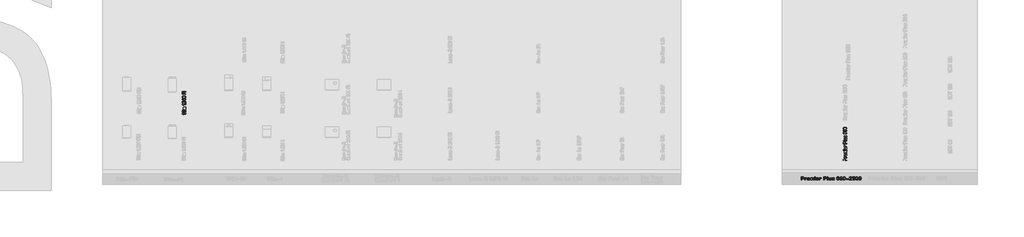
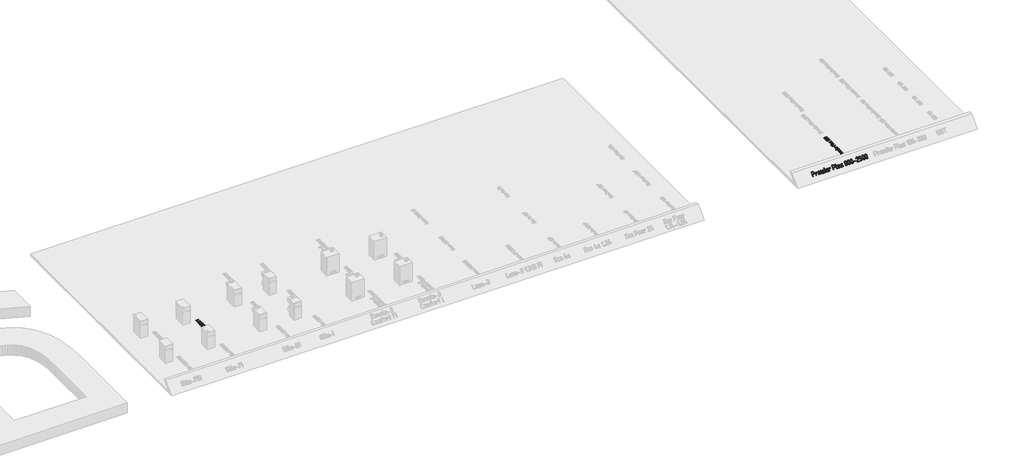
# One storey, part 8 of 37: 3 proxies.
"""IFC4 building model written with IfcOpenShell, lengths in millimetres."""

from ifc_helpers import new_model, si_unit, frame, origin, origin_with_axes, place, context, project, spatial, polyline, outline, extrude, element, save

model = new_model("IFC4")

# Units and contexts
model_context = context("Model", 3, world=origin())
ifc_project = project(units=[si_unit("LENGTHUNIT", "METRE", prefix="MILLI")], contexts=[model_context])

# Site, building, storey
site = spatial("IfcSite", under=ifc_project)
building = spatial("IfcBuilding", under=site)
storey = spatial("IfcBuildingStorey", under=building, Name="01_Стартовый вид_Площадка", Elevation=0.0)

# Proxies
placement = place(None, origin())
element("IfcBuildingElementProxy", 1, Name="150 мм", ObjectType="150 мм", at=placement, inside=storey, context=model_context, shape_type="SweptSolid", body=[
    extrude(outline(polyline([(1429.0001715, -15049.2230875), (1443.3927362, -15051.9647661), (1455.5679869, -15060.1898022), (1463.8679322, -15072.2501921), (1466.6345807, -15086.4979322), (1462.4496504, -15112.516413), (1449.8948594, -15135.4386447), (1443.7822643, -15138.7146761), (1438.488677, -15136.517338), (1436.2713631, -15131.2836781), (1437.6297176, -15127.0488083), (1448.0970373, -15106.593588), (1451.2931655, -15086.817545), (1449.6401679, -15078.2679022), (1444.6811753, -15071.0766138), (1437.385014, -15066.1925304), (1428.7205103, -15064.5645027), (1416.7550055, -15067.6507639), (1408.5049997, -15076.9095477), (1386.8512313, -15118.6190203), (1373.2377229, -15133.6907621), (1353.4117404, -15138.7146761), (1339.0191757, -15135.9879793), (1326.843925, -15127.8078887), (1318.5439797, -15115.8124202), (1315.7773312, -15101.6395894), (1317.8648024, -15078.4576723), (1324.1272161, -15061.4882293), (1331.1187464, -15057.0536015), (1336.4123337, -15059.2709154), (1338.6296476, -15064.5645027), (1337.8306156, -15067.6807276), (1332.7967137, -15084.5602795), (1331.1187464, -15101.3199766), (1332.771744, -15109.7947102), (1337.7307366, -15116.9210772), (1345.0268979, -15121.760215), (1353.6914016, -15123.3732609), (1365.6269427, -15120.3369392), (1373.7870574, -15111.2279739), (1395.4408258, -15069.5584529), (1409.1442253, -15054.3069288), (1429.0001715, -15049.2230875)])), origin_with_axes(), (0.0, 0.0, 1.0), 10.0),
    extrude(outline(polyline([(1323.328184, -15018.5402571), (1317.6650444, -15016.6225802), (1315.7773312, -15010.8695495), (1317.6650444, -15005.1165188), (1323.328184, -15003.1988419), (1444.0219739, -15003.1988419), (1448.7961903, -15001.3261105), (1451.5328751, -14995.7079165), (1454.2795477, -14990.0897224), (1459.0837279, -14988.2169911), (1464.7468675, -14990.0847285), (1466.6345807, -14995.6879407), (1465.1363956, -15004.9117668), (1460.6418404, -15012.2079281), (1453.4905036, -15016.9571748), (1444.0219739, -15018.5402571), (1323.328184, -15018.5402571)])), origin_with_axes(), (0.0, 0.0, 1.0), 10.0),
    extrude(outline(polyline([(1369.11272, -14959.7314988), (1363.5095078, -14957.8138219), (1361.6417704, -14952.0607912), (1363.5095078, -14946.3077605), (1369.11272, -14944.3900836), (1459.1236795, -14944.3900836), (1464.7568554, -14946.3077605), (1466.6345807, -14952.0607912), (1464.7568554, -14957.8138219), (1459.1236795, -14959.7314988), (1369.11272, -14959.7314988)])), origin_with_axes(), (0.0, 0.0, 1.0), 10.0),
    extrude(outline(polyline([(1330.7991336, -14959.7314988), (1323.2882324, -14959.7314988), (1317.6550565, -14957.8138219), (1315.7773312, -14952.0607912), (1317.6550565, -14946.3077605), (1323.2882324, -14944.3900836), (1330.7991336, -14944.3900836), (1336.4323095, -14946.3077605), (1338.3100348, -14952.0607912), (1336.4323095, -14957.8138219), (1330.7991336, -14959.7314988)])), origin_with_axes(), (0.0, 0.0, 1.0), 10.0),
    extrude(outline(polyline([(1361.8015768, -14906.0365456), (1361.8015768, -14837.0001772), (1363.9689512, -14825.0995938), (1370.4710745, -14815.2065783), (1380.1293743, -14808.5396547), (1391.7652784, -14806.3173468), (1459.1636311, -14806.3173468), (1464.7668433, -14808.2350237), (1466.6345807, -14813.9880544), (1464.7668433, -14819.7410851), (1459.1636311, -14821.658762), (1392.0449396, -14821.658762), (1381.4377892, -14826.0734141), (1377.142992, -14837.0001772), (1377.142992, -14852.3415924), (1459.1636311, -14852.3415924), (1464.7668433, -14854.2592693), (1466.6345807, -14860.0123), (1464.7668433, -14865.7653307), (1459.1636311, -14867.6830076), (1377.142992, -14867.6830076), (1377.142992, -14898.365838), (1459.1636311, -14898.365838), (1464.7668433, -14900.2835149), (1466.6345807, -14906.0365456), (1464.7668433, -14911.7895763), (1459.1636311, -14913.7072532), (1369.2725264, -14913.7072532), (1363.6693142, -14911.7895763), (1361.8015768, -14906.0365456)])), origin_with_axes(), (0.0, 0.0, 1.0), 10.0),
    extrude(outline(polyline([(1341.506163, -14693.8136354), (1358.8052067, -14711.0727275), (1360.9625932, -14716.3063873), (1359.0848679, -14721.9395632), (1353.451692, -14723.8172885), (1348.2180321, -14721.6199504), (1318.7337498, -14692.2954745), (1315.7773312, -14686.1429278), (1317.6650444, -14680.3898971), (1323.328184, -14678.4722202), (1459.0837279, -14678.4722202), (1464.7468675, -14680.3898971), (1466.6345807, -14686.1429278), (1464.7468675, -14691.8959585), (1459.0837279, -14693.8136354), (1341.506163, -14693.8136354)])), origin_with_axes(), (0.0, 0.0, 1.0), 10.0),
    extrude(outline(polyline([(1451.2931655, -14647.7893898), (1445.5401348, -14645.8717129), (1443.6224579, -14640.1186822), (1445.5401348, -14634.3656515), (1451.2931655, -14632.4479746), (1458.9638731, -14632.4479746), (1464.7169038, -14634.3656515), (1466.6345807, -14640.1186822), (1464.7169038, -14645.8717129), (1458.9638731, -14647.7893898), (1451.2931655, -14647.7893898)])), origin_with_axes(), (0.0, 0.0, 1.0), 10.0),
    extrude(outline(polyline([(1392.4844072, -14565.4491379), (1392.4844072, -14580.4309887), (1390.5667303, -14586.0641646), (1384.8136996, -14587.9418899), (1379.0606689, -14586.0641646), (1377.142992, -14580.4309887), (1377.142992, -14565.4491379), (1375.4700187, -14556.7446826), (1370.4510987, -14549.4884729), (1363.0250946, -14544.5894077), (1354.1308692, -14542.9563859), (1345.2865833, -14544.6043895), (1337.8505914, -14549.5484003), (1332.8017077, -14556.8195919), (1331.1187464, -14565.4491379), (1331.1187464, -14595.4527911), (1329.2010695, -14601.085967), (1323.4480388, -14602.9636923), (1317.6950081, -14601.085967), (1315.7773312, -14595.4527911), (1315.7773312, -14565.4491379), (1318.5939192, -14550.981664), (1327.043683, -14538.7414919), (1339.4486555, -14530.396601), (1354.1308692, -14527.6149707), (1371.3300339, -14531.3704213), (1384.8136996, -14542.6367731), (1397.8878614, -14531.3704213), (1414.5776432, -14527.6149707), (1429.4396391, -14527.6149707), (1443.7523006, -14530.4115829), (1455.7677449, -14538.8014193), (1463.9178717, -14551.0565733), (1466.6345807, -14565.4491379), (1466.6345807, -14595.4527911), (1464.7169038, -14601.085967), (1458.9638731, -14602.9636923), (1453.2108424, -14601.085967), (1451.2931655, -14595.4527911), (1451.2931655, -14565.4491379), (1449.6901074, -14556.7446826), (1444.8809333, -14549.4884729), (1437.7645542, -14544.5894077), (1429.2398811, -14542.9563859), (1414.5376916, -14542.9563859), (1406.062958, -14544.6043895), (1398.936591, -14549.5484003), (1394.0974532, -14556.8195919), (1392.4844072, -14565.4491379)])), origin_with_axes(), (0.0, 0.0, 1.0), 10.0),
    extrude(outline(polyline([(1391.205956, -14422.7819669), (1416.3455016, -14424.4099947), (1437.8294756, -14429.294078), (1459.4333044, -14441.7090384), (1464.8342616, -14450.0664141), (1466.6345807, -14459.8570536), (1464.8417525, -14469.6476931), (1459.4632681, -14478.0050689), (1437.9493304, -14490.4200292), (1416.4353927, -14495.3041126), (1391.205956, -14496.9321403), (1365.9765192, -14495.3041126), (1344.4625815, -14490.4200292), (1322.9486438, -14478.0050689), (1317.5701594, -14469.6476931), (1315.7773312, -14459.8570536), (1317.5776503, -14450.0664141), (1322.9786075, -14441.7090384), (1344.5824363, -14429.294078), (1366.0664103, -14424.4099947), (1391.205956, -14422.7819669)]), holes=[polyline([(1391.205956, -14438.1233821), (1356.0485461, -14441.9587359), (1337.3511964, -14449.3497823), (1331.1187464, -14459.8570536), (1337.3811601, -14470.2744339), (1356.1684009, -14477.6355165), (1391.205956, -14481.5907251), (1426.3633658, -14477.7553713), (1445.0607156, -14470.364325), (1451.2931655, -14459.8570536), (1445.0607156, -14449.3497823), (1426.3633658, -14441.9587359), (1391.205956, -14438.1233821)])]), origin_with_axes(), (0.0, 0.0, 1.0), 10.0),
    extrude(outline(polyline([(1391.205956, -14317.948963), (1416.3455016, -14319.5769908), (1437.8294756, -14324.4610742), (1459.4333044, -14336.8760345), (1464.8342616, -14345.2334103), (1466.6345807, -14355.0240498), (1464.8417525, -14364.8146893), (1459.4632681, -14373.172065), (1437.9493304, -14385.5870254), (1416.4353927, -14390.4711087), (1391.205956, -14392.0991365), (1365.9765192, -14390.4711087), (1344.4625815, -14385.5870254), (1322.9486438, -14373.172065), (1317.5701594, -14364.8146893), (1315.7773312, -14355.0240498), (1317.5776503, -14345.2334103), (1322.9786075, -14336.8760345), (1344.5824363, -14324.4610742), (1366.0664103, -14319.5769908), (1391.205956, -14317.948963)]), holes=[polyline([(1391.205956, -14333.2903782), (1356.0485461, -14337.125732), (1337.3511964, -14344.5167784), (1331.1187464, -14355.0240498), (1337.3811601, -14365.44143), (1356.1684009, -14372.8025127), (1391.205956, -14376.7577213), (1426.3633658, -14372.9223675), (1445.0607156, -14365.5313211), (1451.2931655, -14355.0240498), (1445.0607156, -14344.5167784), (1426.3633658, -14337.125732), (1391.205956, -14333.2903782)])]), origin_with_axes(), (0.0, 0.0, 1.0), 10.0),
    extrude(outline(polyline([(1459.0837279, -14236.128082), (1323.328184, -14236.128082), (1317.6650444, -14234.2104051), (1315.7773312, -14228.4573744), (1315.7773312, -14168.2902617), (1317.6950081, -14162.6570858), (1323.4480388, -14160.7793605), (1329.2010695, -14162.6570858), (1331.1187464, -14168.2902617), (1331.1187464, -14220.7866668), (1377.142992, -14220.7866668), (1377.142992, -14168.2902617), (1379.0606689, -14162.6570858), (1384.8136996, -14160.7793605), (1390.5667303, -14162.6570858), (1392.4844072, -14168.2902617), (1392.4844072, -14220.7866668), (1459.2035827, -14220.7866668), (1464.7768312, -14222.7043437), (1466.6345807, -14228.4573744), (1464.7468675, -14234.2104051), (1459.0837279, -14236.128082)])), origin_with_axes(), (0.0, 0.0, 1.0), 10.0),
    extrude(outline(polyline([(1369.11272, -14131.2950781), (1363.5095078, -14129.3774012), (1361.6417704, -14123.6243705), (1363.5095078, -14117.8713398), (1369.11272, -14115.9536629), (1459.1236795, -14115.9536629), (1464.7568554, -14117.8713398), (1466.6345807, -14123.6243705), (1464.7568554, -14129.3774012), (1459.1236795, -14131.2950781), (1369.11272, -14131.2950781)])), origin_with_axes(), (0.0, 0.0, 1.0), 10.0),
    extrude(outline(polyline([(1330.7991336, -14131.2950781), (1323.2882324, -14131.2950781), (1317.6550565, -14129.3774012), (1315.7773312, -14123.6243705), (1317.6550565, -14117.8713398), (1323.2882324, -14115.9536629), (1330.7991336, -14115.9536629), (1336.4323095, -14117.8713398), (1338.3100348, -14123.6243705), (1336.4323095, -14129.3774012), (1330.7991336, -14131.2950781)])), origin_with_axes(), (0.0, 0.0, 1.0), 10.0),
])
element("IfcBuildingElementProxy", 2, Name="200мм", ObjectType="200мм", at=placement, inside=storey, context=model_context, shape_type="SweptSolid", body=[
    extrude(outline(polyline([(7.8835354, 0.0), (54.9822836, -15.8674928), (75.3551695, -27.452775), (89.3245979, -46.3241219), (95.3595376, -69.2676232), (91.9289573, -93.0693684), (80.131763, -115.1766267), (62.1553061, -129.8058847), (40.1087194, -135.8689668), (16.101136, -132.2776977), (-21.3557465, -119.6585341), (-43.2607097, -184.6780281), (-48.0307567, -190.8280684), (-56.082337, -190.701191), (-62.5480184, -185.8669629), (-62.5603687, -177.8949509), (-4.770722, -6.3606026), (0.0, 0.0), (7.8835354, 0.0)]), holes=[polyline([(11.2976149, -22.7350648), (-14.8250742, -100.2738402), (22.3289223, -112.790962), (37.668322, -114.8320671), (52.4892795, -110.4450815), (64.7838935, -100.6679697), (72.5442635, -86.5386961), (74.9157894, -70.5939297), (71.0438717, -55.3703393), (61.8989869, -42.9093), (48.4516114, -35.2521866), (11.2976149, -22.7350648)])]), frame((28683.6339944, -17888.306847, 243.3672278), z_axis=(0.0, -0.7071067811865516, 0.7071067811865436), x_axis=(0.9476648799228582, 0.22575570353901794, 0.2257557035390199)), (0.0, 0.0, 1.0), 10.0),
    extrude(outline(polyline([(119.8548062, 0.0), (127.3257559, -2.5569025), (129.8160724, -10.2276101), (129.8160724, -70.474626), (127.2591699, -77.9455756), (119.5884622, -80.4358921), (99.3463172, -80.4358921), (91.835416, -77.9455756), (89.3317822, -70.474626), (91.835416, -62.9637248), (99.3463172, -60.4600911), (109.3608521, -60.4600911), (109.3608521, -20.4552202), (0.0, -20.4552202), (-7.4709496, -17.8983177), (-9.9612661, -10.2276101), (-7.4709496, -2.5569025), (0.0, 0.0), (119.8548062, 0.0)])), frame((28841.3762366, -18021.7129939, 109.9610809), z_axis=(0.0, -0.7071067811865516, 0.7071067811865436), x_axis=(0.0, 0.7071067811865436, 0.7071067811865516)), (0.0, 0.0, 1.0), 10.0),
    extrude(outline(polyline([(80.0097418, 0.0), (80.0097418, 20.4552203), (74.0969047, 34.8644314), (67.6247451, 39.3989382), (60.0339407, 40.9104406), (10.0145349, 40.9104406), (2.5036337, 43.4673431), (0.0, 51.1380507), (2.5036337, 58.8087583), (10.0145349, 61.3656608), (60.0339407, 61.3656608), (75.5751139, 58.4758283), (88.6392878, 49.8063306), (97.5085435, 36.9285976), (100.464962, 21.4140588), (100.464962, -28.4988094), (96.7561216, -47.6888956), (85.6296005, -63.8160257), (69.309371, -74.7627647), (50.0194058, -78.4116777), (30.5829514, -74.8693022), (14.46248, -64.2421761), (3.61562, -48.4479761), (0.0, -29.4043791), (0.0, 0.0), (80.0097418, 0.0)]), holes=[polyline([(50.0194058, -60.4600911), (61.5254672, -58.2627529), (71.2203893, -51.6707387), (77.8124037, -41.9758165), (80.0097418, -30.4697552), (80.0097418, -20.4552202), (20.0290699, -20.4552202), (20.0290699, -30.4697552), (22.226408, -41.9758165), (28.8184223, -51.6707387), (38.5133444, -58.2627529), (50.0194058, -60.4600911)])]), frame((29061.1633168, -17985.3645978, 146.309477), z_axis=(0.0, -0.7071067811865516, 0.7071067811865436), x_axis=(-1.0, 0.0, 0.0)), (0.0, 0.0, 1.0), 10.0),
    extrude(outline(polyline([(8.0648268, 0.0), (95.6150094, -28.42341), (109.8146858, -36.0716859), (119.6837275, -48.3906322), (124.1620708, -63.3839269), (122.1896523, -79.055248), (94.4406404, -164.5281405), (89.701756, -170.8444538), (81.6369292, -170.8444538), (75.1100589, -166.1072188), (74.9850442, -158.2118271), (102.618915, -73.0935939), (103.6105119, -65.2736839), (101.3875031, -57.8242881), (96.4501455, -51.7058984), (89.2986961, -47.8790062), (69.8431, -41.5626929), (36.0738519, -145.5792005), (31.3349676, -151.8955138), (23.2701408, -151.8955138), (16.7432705, -147.1582788), (16.6182557, -139.2628871), (50.3875038, -35.2463795), (11.4763115, -22.6137529), (-22.2929366, -126.6302605), (-27.0318209, -132.9465738), (-35.0966477, -132.9465738), (-41.623518, -128.2093388), (-41.7485328, -120.3139471), (-4.7388844, -6.3163134), (0.0, 0.0), (8.0648268, 0.0)])), frame((29103.0325958, -17931.6800885, 199.9939863), z_axis=(0.0, -0.7071067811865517, 0.7071067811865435), x_axis=(0.9511311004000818, 0.21834563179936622, 0.21834563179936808)), (0.0, 0.0, 1.0), 10.0),
    extrude(outline(polyline([(-40.4252129, 16.4627758), (-34.1768363, 11.6346677), (-34.2913698, 3.5706542), (-39.1208191, -2.8882816), (-47.0171899, -2.9011566), (-160.6290118, 35.7752083), (-166.9152084, 40.6161914), (-166.8132817, 48.6844966), (-161.9712257, 55.1391407), (-154.0370348, 55.1391407), (-40.4252129, 16.4627758)])), frame((29287.1295781, -17906.0007942, 225.6732806), z_axis=(0.0, -0.7071067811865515, 0.7071067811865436), x_axis=(-0.322263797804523, 0.6693825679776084, 0.6693825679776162)), (0.0, 0.0, 1.0), 10.0),
    extrude(outline(polyline([(7.934191, 0.0), (17.4144495, -3.2273221), (23.7006464, -8.0683052), (23.5987196, -16.1366103), (18.7566637, -22.5912544), (10.8224726, -22.5912545), (1.342214, -19.3639324), (-4.9439827, -14.5229493), (-4.842056, -6.4546441), (0.0, 0.0), (7.934191, 0.0)])), frame((29287.1295781, -17906.0007942, 225.6732806), z_axis=(0.0, -0.7071067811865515, 0.7071067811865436), x_axis=(-0.322263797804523, 0.6693825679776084, 0.6693825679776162)), (0.0, 0.0, 1.0), 10.0),
    extrude(outline(polyline([(80.0097417, 0.0), (80.0097417, 20.4552203), (74.0969046, 34.8644314), (67.6247451, 39.3989382), (60.0339407, 40.9104406), (10.0145349, 40.9104406), (2.5036337, 43.4673431), (0.0, 51.1380507), (2.5036337, 58.8087583), (10.0145349, 61.3656608), (60.0339407, 61.3656608), (75.5751139, 58.4758283), (88.6392878, 49.8063306), (97.5085435, 36.9285976), (100.464962, 21.4140588), (100.464962, -28.4988094), (96.7561216, -47.6888956), (85.6296004, -63.8160257), (69.309371, -74.7627647), (50.0194058, -78.4116777), (30.5829514, -74.8693022), (14.4624799, -64.2421761), (3.61562, -48.4479761), (0.0, -29.4043791), (0.0, 0.0), (80.0097417, 0.0)]), holes=[polyline([(50.0194058, -60.4600911), (61.5254672, -58.2627529), (71.2203893, -51.6707387), (77.8124036, -41.9758165), (80.0097417, -30.4697552), (80.0097417, -20.4552202), (20.0290698, -20.4552202), (20.0290698, -30.4697552), (22.2264079, -41.9758165), (28.8184223, -51.6707387), (38.5133444, -58.2627529), (50.0194058, -60.4600911)])]), frame((29446.4032984, -17985.3645978, 146.309477), z_axis=(0.0, -0.7071067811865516, 0.7071067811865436), x_axis=(-1.0, 0.0, 0.0)), (0.0, 0.0, 1.0), 10.0),
    extrude(outline(polyline([(119.8548062, 0.0), (127.3257559, -2.5569025), (129.8160724, -10.2276101), (129.8160724, -70.474626), (127.2591699, -77.9455756), (119.5884622, -80.4358921), (99.3463172, -80.4358921), (91.835416, -77.9455756), (89.3317822, -70.474626), (91.835416, -62.9637248), (99.3463172, -60.4600911), (109.3608521, -60.4600911), (109.3608521, -20.4552202), (0.0, -20.4552202), (-7.4709496, -17.8983177), (-9.9612661, -10.2276101), (-7.4709496, -2.5569025), (0.0, 0.0), (119.8548062, 0.0)])), frame((29485.7156749, -18021.7129939, 109.9610809), z_axis=(0.0, -0.7071067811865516, 0.7071067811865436), x_axis=(0.0, 0.7071067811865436, 0.7071067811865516)), (0.0, 0.0, 1.0), 10.0),
    extrude(outline(polyline([(7.8835354, 0.0), (54.9822837, -15.8674928), (75.3551696, -27.452775), (89.324598, -46.3241219), (95.3595377, -69.2676232), (91.9289574, -93.0693684), (80.1317631, -115.1766267), (62.1553062, -129.8058847), (40.1087195, -135.8689668), (16.101136, -132.2776977), (-21.3557464, -119.6585341), (-43.2607096, -184.6780281), (-48.0307567, -190.8280684), (-56.082337, -190.701191), (-62.5480184, -185.8669629), (-62.5603687, -177.8949509), (-4.7707219, -6.3606027), (0.0, 0.0), (7.8835354, 0.0)]), holes=[polyline([(11.2976149, -22.7350648), (-14.8250741, -100.2738402), (22.3289224, -112.790962), (37.6683221, -114.8320671), (52.4892795, -110.4450816), (64.7838936, -100.6679697), (72.5442635, -86.5386961), (74.9157895, -70.5939297), (71.0438718, -55.3703394), (61.898987, -42.9093), (48.4516115, -35.2521866), (11.2976149, -22.7350648)])]), frame((29675.7121771, -17888.306847, 243.3672278), z_axis=(0.0, -0.7071067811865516, 0.7071067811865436), x_axis=(0.9476648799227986, 0.22575570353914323, 0.22575570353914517)), (0.0, 0.0, 1.0), 10.0),
    extrude(outline(polyline([(160.9250532, 0.0), (168.475906, -2.5569026), (170.9928569, -10.2276102), (168.475906, -17.8983178), (160.9250532, -20.4552203), (0.0, -20.4552203), (-6.3656219, -22.9521954), (-10.0145348, -30.4431208), (-13.676765, -37.9340462), (-20.0823386, -40.4310213), (-27.6331914, -37.9407048), (-30.1501423, -30.4697552), (-28.1525623, -18.1713204), (-22.159822, -8.4431053), (-12.6247063, -2.1107763), (0.0, 0.0), (160.9250532, 0.0)])), frame((29833.4544193, -18007.4373026, 124.2367722), z_axis=(0.0, -0.7071067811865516, 0.7071067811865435), x_axis=(0.0, 0.7071067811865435, 0.7071067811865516)), (0.0, 0.0, 1.0), 10.0),
    extrude(outline(polyline([(7.8963814, 0.0), (121.2937943, -38.8098097), (127.5601636, -43.5725011), (127.5101016, -51.4095223), (111.5032112, -98.1796552), (103.8057301, -111.7461767), (91.4765408, -120.9968587), (76.5112492, -124.9537749), (60.9054608, -122.6389988), (-24.1173995, -93.5402659), (-30.3578956, -88.7019763), (-30.230214, -80.6381603), (-25.39024, -74.1871075), (-17.4938586, -74.1871074), (67.1762096, -103.1650987), (82.2515299, -102.3002329), (92.2362968, -91.3041201), (104.7416799, -54.7649537), (1.2728405, -19.3531584), (-4.9676556, -14.5148688), (-4.8399741, -6.4510528), (0.0, 0.0), (7.8963814, 0.0)])), frame((30008.1760924, -17931.6800885, 199.9939863), z_axis=(0.0, -0.7071067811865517, 0.7071067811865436), x_axis=(0.32380687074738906, -0.6690101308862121, -0.66901013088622)), (0.0, 0.0, 1.0), 10.0),
    extrude(outline(polyline([(6.7166797, 0.0), (14.145986, 3.991335), (17.9066814, 11.4469663), (29.6493207, 67.1668895), (38.4046143, 84.8875475), (55.5030995, 94.2526303), (71.1497951, 94.3948957), (84.6580761, 86.6684244), (93.8591896, 74.7388044), (99.8206793, 58.8938008), (102.0852659, 37.6922648), (98.3024968, 17.4558513), (90.8058995, 10.1994258), (83.2482825, 11.3993597), (78.7037421, 17.5560285), (78.7833768, 22.4004929), (81.562566, 38.3210255), (79.9479029, 54.0472767), (71.9400433, 71.257438), (66.3413128, 74.6828079), (59.679382, 74.6550374), (52.4154312, 70.7725664), (48.7367866, 63.5425582), (36.8363564, 7.345513), (28.0526652, -10.258703), (10.9447143, -19.5849718), (-5.3034403, -19.8465044), (-18.8565291, -12.0487156), (-27.780888, 0.2636712), (-33.8184082, 16.9262908), (-37.3451104, 43.3030289), (-34.2943684, 66.5410598), (-26.7308632, 74.1976129), (-19.1732461, 72.997679), (-14.6287057, 66.8410102), (-14.4571319, 62.9899205), (-16.5086244, 47.7951572), (-13.8067991, 21.2035426), (-5.659473, 3.5339237), (0.0, 0.0), (6.7166797, 0.0)])), frame((30129.5823525, -18008.3601375, 123.3139373), z_axis=(0.0, -0.7071067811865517, 0.7071067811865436), x_axis=(0.23693335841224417, 0.6869725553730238, 0.6869725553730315)), (0.0, 0.0, 1.0), 10.0),
    extrude(outline(polyline([(19.3492933, 0.0), (37.3021897, -7.2172481), (50.8907264, -21.0775011), (58.4538497, -39.08911), (58.330506, -58.7604252), (54.5055922, -78.529409), (45.2021075, -99.6935113), (26.7831061, -114.1294511), (38.4882707, -134.3938309), (39.2261746, -157.5007466), (32.0032553, -175.7984321), (18.2676521, -189.6891516), (0.489924, -197.4806427), (-18.8593694, -197.4806426), (-36.8122656, -190.2633946), (-50.4008024, -176.4031415), (-57.9639257, -158.3915327), (-57.8405819, -138.7202175), (-48.5370973, -117.5561151), (-30.118096, -103.1201754), (-38.5930198, -89.0149671), (-41.7235022, -73.3666113), (-38.7362506, -39.9798961), (-31.5133313, -21.6822106), (-17.7777281, -7.791491), (0.0, 0.0), (19.3492933, 0.0)]), holes=[polyline([(15.4636666, -20.0827772), (4.0398769, -20.0970205), (-6.3831947, -24.7539322), (-14.4222395, -33.0732517), (-18.6939487, -44.0747184), (-22.488506, -63.6868055), (-22.5887525, -75.3868556), (-18.1741218, -86.1157191), (-10.2282568, -94.3673552), (0.2651996, -98.6357235), (11.6877246, -98.6280175), (22.1070017, -93.9907179), (30.1422518, -85.6910104), (34.4126961, -74.6960812), (38.2072534, -55.0839941), (38.3473496, -43.2831407), (33.9915553, -32.5656609), (26.0577133, -24.3570436), (15.4636666, -20.0827772)]), polyline([(-3.4484072, -117.8294194), (-14.8709321, -117.8371255), (-25.2902091, -122.4744251), (-33.3254593, -130.7741325), (-37.5959037, -141.7690618), (-37.6961501, -153.4691119), (-33.2815194, -164.1979753), (-25.3356544, -172.4496114), (-14.842198, -176.7179798), (-3.419673, -176.7102737), (6.999604, -172.0729741), (15.0348541, -163.7732667), (19.3052984, -152.7783375), (19.4441298, -140.9840215), (15.0845409, -130.2861539), (7.1469043, -122.0971485), (-3.4484072, -117.8294194)])]), frame((30328.0352772, -18026.1576682, 105.5164066), z_axis=(0.0, -0.7071067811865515, 0.7071067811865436), x_axis=(-0.9817922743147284, -0.13432038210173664, -0.13432038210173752)), (0.0, 0.0, 1.0), 10.0),
    extrude(outline(polyline([(33.5896076, 0.0), (66.8986549, -4.3323324), (95.0632351, -12.6820125), (111.3579665, -21.0737201), (122.7383843, -31.0621998), (129.2044885, -42.6474518), (130.756279, -55.8294759), (127.5272211, -68.7018941), (119.65078, -79.358328), (107.1269556, -87.7987777), (89.9557479, -94.0232434), (60.9096189, -98.6679788), (27.200407, -98.6602332), (-6.2282446, -94.3201553), (-34.4326928, -85.9678934), (-50.6576551, -77.580704), (-61.9882377, -67.5954516), (-68.4244409, -56.0121361), (-69.9662644, -42.8307574), (-66.7272396, -29.9589847), (-58.8208973, -19.3044871), (-46.2472377, -10.8672646), (-29.0062608, -4.6473173), (0.0, 0.0), (33.5896076, 0.0)]), holes=[polyline([(32.267704, -20.4124621), (-14.8413307, -22.4862152), (-40.3558734, -30.709274), (-46.9944147, -36.7784265), (-49.5538024, -44.152661), (-47.9524236, -51.7262834), (-42.1189923, -58.5530721), (-17.7559726, -69.9661483), (28.5223105, -78.2477712), (75.6313453, -76.1740181), (101.145888, -67.9509592), (107.7844292, -61.8818068), (110.343817, -54.5075724), (108.7569234, -46.8648262), (102.9566205, -39.9901388), (78.715787, -28.5449399), (32.267704, -20.4124621)])]), frame((30496.0783742, -17933.9400924, 197.7339824), z_axis=(0.0, -0.7071067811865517, 0.7071067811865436), x_axis=(0.06462426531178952, -0.7056286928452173, -0.7056286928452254)), (0.0, 0.0, 1.0), 10.0),
    extrude(outline(polyline([(33.5896076, 1e-07), (66.8986549, -4.3323324), (95.0632351, -12.6820124), (111.3579665, -21.0737201), (122.7383843, -31.0621998), (129.2044885, -42.6474517), (130.756279, -55.8294758), (127.5272211, -68.701894), (119.65078, -79.358328), (107.1269556, -87.7987776), (89.9557479, -94.0232433), (60.9096189, -98.6679788), (27.200407, -98.6602332), (-6.2282446, -94.3201553), (-34.4326928, -85.9678933), (-50.6576551, -77.5807039), (-61.9882377, -67.5954516), (-68.4244409, -56.012136), (-69.9662644, -42.8307573), (-66.7272396, -29.9589846), (-58.8208973, -19.3044871), (-46.2472377, -10.8672646), (-29.0062608, -4.6473172), (0.0, 0.0), (33.5896076, 1e-07)]), holes=[polyline([(32.267704, -20.412462), (-14.8413307, -22.4862152), (-40.3558734, -30.709274), (-46.9944147, -36.7784264), (-49.5538024, -44.1526609), (-47.9524235, -51.7262833), (-42.1189923, -58.553072), (-17.7559726, -69.9661482), (28.5223105, -78.2477711), (75.6313453, -76.174018), (101.145888, -67.9509591), (107.7844292, -61.8818067), (110.343817, -54.5075723), (108.7569234, -46.8648261), (102.9566205, -39.9901388), (78.715787, -28.5449399), (32.267704, -20.412462)])]), frame((30635.8557126, -17933.9400924, 197.7339824), z_axis=(0.0, -0.7071067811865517, 0.7071067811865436), x_axis=(0.06462426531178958, -0.7056286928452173, -0.7056286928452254)), (0.0, 0.0, 1.0), 10.0),
    extrude(outline(polyline([(7.934191, 0.0), (83.6754055, -25.7842433), (89.9616023, -30.6252263), (89.8596755, -38.6935315), (85.0176196, -45.1481755), (77.0834285, -45.1481756), (1.3422141, -19.3639324), (-4.9439827, -14.5229492), (-4.8420561, -6.4546441), (0.0, 0.0), (7.934191, 0.0)])), frame((30775.9926155, -17990.7886072, 140.8854676), z_axis=(0.0, -0.7071067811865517, 0.7071067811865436), x_axis=(-0.9466499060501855, -0.227874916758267, -0.22787491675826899)), (0.0, 0.0, 1.0), 10.0),
    extrude(outline(polyline([(14.6692354, 0.0), (33.1062033, -6.6022305), (47.3681923, -19.9776426), (55.6930956, -37.6934159), (56.3188067, -57.3167297), (51.840737, -71.1866425), (42.8424616, -84.4831553), (-35.138713, -175.0883818), (26.2241518, -184.7023202), (33.2487615, -188.3909847), (34.5349086, -196.3567716), (30.8741352, -203.5475071), (23.0579834, -204.9110166), (-55.9874908, -192.5266809), (-63.0203458, -188.8906432), (-64.3312286, -181.0827367), (-61.7484405, -175.6102613), (28.9539758, -70.2294251), (36.4734082, -54.5849108), (36.0907364, -42.8313549), (31.0839533, -32.2000358), (22.5293124, -24.1671006), (11.503067, -20.2086964), (-5.5868318, -23.8935587), (-23.3858749, -40.192112), (-32.6617346, -43.6454247), (-39.6945896, -40.009387), (-41.0054724, -32.2014805), (-39.423307, -28.2976299), (-27.0462713, -14.148815), (-13.9051689, -4.7162716), (0.0, 0.0), (14.6692354, 0.0)])), frame((30853.7617383, -17888.1326384, 243.5414364), z_axis=(0.0, -0.7071067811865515, 0.7071067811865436), x_axis=(0.9879481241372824, 0.10944976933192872, 0.10944976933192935)), (0.0, 0.0, 1.0), 10.0),
    extrude(outline(polyline([(8.0525798, 0.0), (85.9933219, -24.8977371), (92.5546311, -29.5660627), (92.7533732, -37.3466056), (71.8755833, -102.7031653), (67.1544006, -109.0798276), (59.0856113, -109.1305702), (52.5405115, -104.4115019), (52.3903978, -96.4787311), (70.0262949, -41.2707055), (11.5707383, -22.5974027), (2.6231141, -50.6073568), (-6.5931996, -67.4452021), (-21.8581101, -79.1913375), (-40.4463133, -84.5354393), (-59.6325046, -82.1671837), (-78.6102635, -76.1048441), (-95.6952149, -66.8305639), (-107.6752423, -51.5538486), (-113.1979125, -32.999474), (-110.9107923, -13.8922156), (-98.8833698, 23.758846), (-94.1865014, 30.0593943), (-86.1258167, 30.0847656), (-79.5645075, 25.4164399), (-79.3657654, 17.6358971), (-91.2959311, -19.7107086), (-92.7185758, -31.1883307), (-89.4977377, -42.1780831), (-82.4104137, -51.1735429), (-72.2336012, -56.6682869), (-53.5602983, -62.6333698), (-42.1420523, -64.023067), (-31.127457, -60.7682242), (-22.0898878, -53.6803718), (-16.6027199, -43.5710399), (-4.6725542, -6.2244343), (0.0, 0.0), (8.0525798, 0.0)])), frame((30960.9418987, -17957.0392156, 174.6348592), z_axis=(0.0, -0.7071067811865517, 0.7071067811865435), x_axis=(-0.30429563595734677, 0.6735741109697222, 0.6735741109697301)), (0.0, 0.0, 1.0), 10.0),
    extrude(outline(polyline([(33.5896076, 0.0), (66.8986549, -4.3323324), (95.0632351, -12.6820124), (111.3579665, -21.0737201), (122.7383843, -31.0621998), (129.2044885, -42.6474518), (130.756279, -55.8294758), (127.5272211, -68.701894), (119.65078, -79.358328), (107.1269556, -87.7987777), (89.9557479, -94.0232434), (60.9096189, -98.6679788), (27.200407, -98.6602332), (-6.2282446, -94.3201553), (-34.4326928, -85.9678934), (-50.6576551, -77.580704), (-61.9882377, -67.5954516), (-68.4244409, -56.012136), (-69.9662644, -42.8307573), (-66.7272396, -29.9589847), (-58.8208973, -19.3044871), (-46.2472377, -10.8672646), (-29.0062608, -4.6473172), (0.0, 0.0), (33.5896076, 0.0)]), holes=[polyline([(32.267704, -20.412462), (-14.8413307, -22.4862152), (-40.3558734, -30.709274), (-46.9944147, -36.7784265), (-49.5538024, -44.1526609), (-47.9524235, -51.7262833), (-42.1189923, -58.5530721), (-17.7559726, -69.9661483), (28.5223105, -78.2477711), (75.6313453, -76.1740181), (101.145888, -67.9509592), (107.7844292, -61.8818067), (110.343817, -54.5075723), (108.7569234, -46.8648262), (102.9566205, -39.9901388), (78.715787, -28.5449399), (32.267704, -20.412462)])]), frame((31194.9650665, -17933.9400924, 197.7339824), z_axis=(0.0, -0.7071067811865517, 0.7071067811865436), x_axis=(0.06462426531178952, -0.7056286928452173, -0.7056286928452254)), (0.0, 0.0, 1.0), 10.0),
    extrude(outline(polyline([(33.5896076, 0.0), (66.8986549, -4.3323324), (95.0632351, -12.6820125), (111.3579665, -21.0737201), (122.7383843, -31.0621998), (129.2044885, -42.6474518), (130.756279, -55.8294759), (127.5272211, -68.7018941), (119.65078, -79.358328), (107.1269556, -87.7987777), (89.9557479, -94.0232434), (60.9096189, -98.6679788), (27.200407, -98.6602332), (-6.2282446, -94.3201553), (-34.4326928, -85.9678934), (-50.6576551, -77.580704), (-61.9882377, -67.5954516), (-68.4244409, -56.0121361), (-69.9662644, -42.8307574), (-66.7272396, -29.9589847), (-58.8208973, -19.3044871), (-46.2472377, -10.8672646), (-29.0062608, -4.6473173), (0.0, 0.0), (33.5896076, 0.0)]), holes=[polyline([(32.267704, -20.4124621), (-14.8413307, -22.4862152), (-40.3558734, -30.709274), (-46.9944147, -36.7784265), (-49.5538024, -44.152661), (-47.9524236, -51.7262834), (-42.1189923, -58.5530721), (-17.7559726, -69.9661483), (28.5223105, -78.2477712), (75.6313453, -76.1740181), (101.145888, -67.9509592), (107.7844292, -61.8818068), (110.343817, -54.5075724), (108.7569234, -46.8648262), (102.9566205, -39.9901388), (78.715787, -28.5449399), (32.267704, -20.4124621)])]), frame((31334.742405, -17933.9400924, 197.7339824), z_axis=(0.0, -0.7071067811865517, 0.7071067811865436), x_axis=(0.06462426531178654, -0.7056286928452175, -0.7056286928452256)), (0.0, 0.0, 1.0), 10.0),
])
element("IfcBuildingElementProxy", 3, Name="150 мм", ObjectType="150 мм", at=placement, inside=storey, context=model_context, shape_type="SweptSolid", body=[
    extrude(outline(polyline([(30544.4863843, -17168.7582704), (30544.4863843, -17131.4834256), (30547.8423188, -17114.2293275), (30557.9101226, -17099.7818294), (30572.7721185, -17089.9986808), (30590.5106299, -17086.7376313), (30609.0481732, -17089.8288865), (30623.7503628, -17099.1026521), (30633.3387473, -17113.3204285), (30636.5348755, -17131.243716), (30636.5348755, -17160.8878048), (30687.9925389, -17160.8878048), (30693.50586, -17162.8054817), (30695.3436337, -17168.5585124), (30693.4559205, -17174.3115431), (30687.7927809, -17176.22922), (30552.0372371, -17176.22922), (30546.3740975, -17174.3614826), (30544.4863843, -17168.7582704)]), holes=[polyline([(30559.8277995, -17160.8878048), (30621.1934603, -17160.8878048), (30621.1934603, -17131.4834256), (30618.9711524, -17120.0922251), (30612.3042288, -17110.6087135), (30602.4112133, -17104.2114633), (30590.5106299, -17102.0790465), (30578.6100464, -17104.2114633), (30568.7170309, -17110.6087135), (30562.0501073, -17120.0922251), (30559.8277995, -17131.4834256), (30559.8277995, -17160.8878048)])]), frame((0.0, 0.0, 11.1696829), z_axis=(0.0, 0.0, 1.0), x_axis=(1.0, 0.0, 0.0)), (0.0, 0.0, 1.0), 10.0),
    extrude(outline(polyline([(30597.9815795, -17056.0548009), (30592.3783673, -17054.137124), (30590.5106299, -17048.3840933), (30590.5106299, -17003.1988314), (30592.4283068, -16997.5956192), (30598.1813375, -16995.7278818), (30613.3629463, -16995.7278818), (30618.9961221, -16997.5956192), (30620.8738474, -17003.1988314), (30618.9961221, -17008.8320073), (30613.3629463, -17010.7097326), (30605.8520451, -17010.7097326), (30605.8520451, -17040.7133857), (30687.8726841, -17040.7133857), (30693.4758963, -17042.6310626), (30695.3436337, -17048.3840933), (30693.4758963, -17054.137124), (30687.8726841, -17056.0548009), (30597.9815795, -17056.0548009)])), frame((0.0, 0.0, 11.1696829), z_axis=(0.0, 0.0, 1.0), x_axis=(1.0, 0.0, 0.0)), (0.0, 0.0, 1.0), 10.0),
    extrude(outline(polyline([(30649.3193881, -16951.2217971), (30664.6608033, -16951.2217971), (30675.4677117, -16946.7871692), (30680.0022185, -16936.2399463), (30680.0022185, -16898.7253919), (30681.9198954, -16893.092216), (30687.6729261, -16891.2144907), (30693.4259568, -16893.092216), (30695.3436337, -16898.7253919), (30695.3436337, -16936.2399463), (30693.1762593, -16947.8958262), (30686.6741361, -16957.6939566), (30677.0158363, -16964.3458983), (30665.3799322, -16966.5632123), (30627.945281, -16966.5632123), (30613.5527164, -16963.781582), (30601.4573688, -16955.4366911), (30593.2473146, -16943.196519), (30590.5106299, -16928.7290451), (30593.1674114, -16914.1517043), (30601.137756, -16902.0613507), (30612.983406, -16893.9262057), (30627.2661038, -16891.2144907), (30649.3193881, -16891.2144907), (30649.3193881, -16951.2217971)]), holes=[polyline([(30603.9743198, -16928.7290451), (30605.6223234, -16937.3585911), (30610.5663341, -16944.6297827), (30617.8375257, -16949.5737935), (30626.4670717, -16951.2217971), (30633.9779729, -16951.2217971), (30633.9779729, -16906.2362931), (30626.4670717, -16906.2362931), (30617.8375257, -16907.8842967), (30610.5663341, -16912.8283075), (30605.6223234, -16920.099499), (30603.9743198, -16928.7290451)])]), frame((0.0, 0.0, 11.1696829), z_axis=(0.0, 0.0, 1.0), x_axis=(1.0, 0.0, 0.0)), (0.0, 0.0, 1.0), 10.0),
    extrude(outline(polyline([(30590.5106299, -16854.0595008), (30590.5106299, -16785.0231324), (30592.6780043, -16773.122549), (30599.1801275, -16763.2295335), (30608.8384273, -16756.5626099), (30620.4743314, -16754.340302), (30687.8726841, -16754.340302), (30693.4758963, -16756.2579789), (30695.3436337, -16762.0110096), (30693.4758963, -16767.7640403), (30687.8726841, -16769.6817172), (30620.7539926, -16769.6817172), (30610.1468423, -16774.0963693), (30605.8520451, -16785.0231324), (30605.8520451, -16800.3645476), (30687.8726841, -16800.3645476), (30693.4758963, -16802.2822245), (30695.3436337, -16808.0352552), (30693.4758963, -16813.7882859), (30687.8726841, -16815.7059628), (30605.8520451, -16815.7059628), (30605.8520451, -16846.3887932), (30687.8726841, -16846.3887932), (30693.4758963, -16848.3064701), (30695.3436337, -16854.0595008), (30693.4758963, -16859.8125315), (30687.8726841, -16861.7302084), (30597.9815795, -16861.7302084), (30592.3783673, -16859.8125315), (30590.5106299, -16854.0595008)])), frame((0.0, 0.0, 11.1696829), z_axis=(0.0, 0.0, 1.0), x_axis=(1.0, 0.0, 0.0)), (0.0, 0.0, 1.0), 10.0),
    extrude(outline(polyline([(30597.821773, -16723.6574716), (30592.2185609, -16721.7397947), (30590.3508235, -16715.986764), (30592.2185609, -16710.2337333), (30597.821773, -16708.3160564), (30687.8327325, -16708.3160564), (30693.4659084, -16710.2337333), (30695.3436337, -16715.986764), (30693.4659084, -16721.7397947), (30687.8327325, -16723.6574716), (30597.821773, -16723.6574716)])), frame((0.0, 0.0, 11.1696829), z_axis=(0.0, 0.0, 1.0), x_axis=(1.0, 0.0, 0.0)), (0.0, 0.0, 1.0), 10.0),
    extrude(outline(polyline([(30559.5081867, -16723.6574716), (30551.9972855, -16723.6574716), (30546.3641096, -16721.7397947), (30544.4863843, -16715.986764), (30546.3641096, -16710.2337333), (30551.9972855, -16708.3160564), (30559.5081867, -16708.3160564), (30565.1413625, -16710.2337333), (30567.0190878, -16715.986764), (30565.1413625, -16721.7397947), (30559.5081867, -16723.6574716)])), frame((0.0, 0.0, 11.1696829), z_axis=(0.0, 0.0, 1.0), x_axis=(1.0, 0.0, 0.0)), (0.0, 0.0, 1.0), 10.0),
    extrude(outline(polyline([(30649.3193881, -16662.2918108), (30664.6608033, -16662.2918108), (30675.4677117, -16657.857183), (30680.0022185, -16647.3099601), (30680.0022185, -16609.7954057), (30681.9198954, -16604.1622298), (30687.6729261, -16602.2845045), (30693.4259568, -16604.1622298), (30695.3436337, -16609.7954057), (30695.3436337, -16647.3099601), (30693.1762593, -16658.96584), (30686.6741361, -16668.7639704), (30677.0158363, -16675.4159121), (30665.3799322, -16677.633226), (30627.945281, -16677.633226), (30613.5527164, -16674.8515957), (30601.4573688, -16666.5067049), (30593.2473146, -16654.2665328), (30590.5106299, -16639.7990589), (30593.1674114, -16625.2217181), (30601.137756, -16613.1313645), (30612.983406, -16604.9962195), (30627.2661038, -16602.2845045), (30649.3193881, -16602.2845045), (30649.3193881, -16662.2918108)]), holes=[polyline([(30603.9743198, -16639.7990589), (30605.6223234, -16648.4286049), (30610.5663341, -16655.6997965), (30617.8375257, -16660.6438073), (30626.4670717, -16662.2918108), (30633.9779729, -16662.2918108), (30633.9779729, -16617.3063069), (30626.4670717, -16617.3063069), (30617.8375257, -16618.9543105), (30610.5663341, -16623.8983212), (30605.6223234, -16631.1695128), (30603.9743198, -16639.7990589)])]), frame((0.0, 0.0, 11.1696829), z_axis=(0.0, 0.0, 1.0), x_axis=(1.0, 0.0, 0.0)), (0.0, 0.0, 1.0), 10.0),
    extrude(outline(polyline([(30597.9815795, -16572.8002222), (30592.3783673, -16570.8825453), (30590.5106299, -16565.1295146), (30590.5106299, -16519.9442526), (30592.4283068, -16514.3410404), (30598.1813375, -16512.4733031), (30613.3629463, -16512.4733031), (30618.9961221, -16514.3410404), (30620.8738474, -16519.9442526), (30618.9961221, -16525.5774285), (30613.3629463, -16527.4551538), (30605.8520451, -16527.4551538), (30605.8520451, -16557.458807), (30687.8726841, -16557.458807), (30693.4758963, -16559.3764839), (30695.3436337, -16565.1295146), (30693.4758963, -16570.8825453), (30687.8726841, -16572.8002222), (30597.9815795, -16572.8002222)])), frame((0.0, 0.0, 11.1696829), z_axis=(0.0, 0.0, 1.0), x_axis=(1.0, 0.0, 0.0)), (0.0, 0.0, 1.0), 10.0),
    extrude(outline(polyline([(30544.4863843, -16424.6996333), (30544.4863843, -16387.4247886), (30547.8423188, -16370.1706904), (30557.9101226, -16355.7231923), (30572.7721185, -16345.9400437), (30590.5106299, -16342.6789942), (30609.0481732, -16345.7702494), (30623.7503628, -16355.0440151), (30633.3387473, -16369.2617915), (30636.5348755, -16387.1850789), (30636.5348755, -16416.8291677), (30687.9925389, -16416.8291677), (30693.50586, -16418.7468446), (30695.3436337, -16424.4998753), (30693.4559205, -16430.252906), (30687.7927809, -16432.1705829), (30552.0372371, -16432.1705829), (30546.3740975, -16430.3028455), (30544.4863843, -16424.6996333)]), holes=[polyline([(30559.8277995, -16416.8291677), (30621.1934603, -16416.8291677), (30621.1934603, -16387.4247886), (30618.9711524, -16376.033588), (30612.3042288, -16366.5500765), (30602.4112133, -16360.1528262), (30590.5106299, -16358.0204094), (30578.6100464, -16360.1528262), (30568.7170309, -16366.5500765), (30562.0501073, -16376.033588), (30559.8277995, -16387.4247886), (30559.8277995, -16416.8291677)])]), frame((0.0, 0.0, 11.1696829), z_axis=(0.0, 0.0, 1.0), x_axis=(1.0, 0.0, 0.0)), (0.0, 0.0, 1.0), 10.0),
    extrude(outline(polyline([(30552.0372371, -16311.9961638), (30546.3740975, -16310.0784869), (30544.4863843, -16304.3254562), (30546.3740975, -16298.5724255), (30552.0372371, -16296.6547486), (30672.7310269, -16296.6547486), (30677.5052434, -16294.7820173), (30680.2419281, -16289.1638232), (30682.9886008, -16283.5456292), (30687.7927809, -16281.6728979), (30693.4559205, -16283.5406353), (30695.3436337, -16289.1438474), (30693.8454486, -16298.3676736), (30689.3508934, -16305.6638349), (30682.1995566, -16310.4130816), (30672.7310269, -16311.9961638), (30552.0372371, -16311.9961638)])), frame((0.0, 0.0, 11.1696829), z_axis=(0.0, 0.0, 1.0), x_axis=(1.0, 0.0, 0.0)), (0.0, 0.0, 1.0), 10.0),
    extrude(outline(polyline([(30597.9815795, -16179.0372321), (30687.8726841, -16179.0372321), (30693.4758963, -16180.8949816), (30695.3436337, -16186.4682301), (30695.3436337, -16223.5433168), (30693.1762593, -16235.0393903), (30686.6741361, -16244.5978111), (30677.0158363, -16251.040007), (30665.3799322, -16253.1874056), (30597.9815795, -16253.1874056), (30592.3783673, -16251.2697287), (30590.5106299, -16245.516698), (30592.3783673, -16239.7636673), (30597.9815795, -16237.8459904), (30665.1002709, -16237.8459904), (30675.5875665, -16233.571169), (30680.0022185, -16223.3435588), (30680.0022185, -16194.3786473), (30597.9815795, -16194.3786473), (30592.3783673, -16192.4609704), (30590.5106299, -16186.7079397), (30592.3783673, -16180.954909), (30597.9815795, -16179.0372321)])), frame((0.0, 0.0, 11.1696829), z_axis=(0.0, 0.0, 1.0), x_axis=(1.0, 0.0, 0.0)), (0.0, 0.0, 1.0), 10.0),
    extrude(outline(polyline([(30668.8157699, -16088.7066598), (30662.6931869, -16090.294736), (30658.6281114, -16095.0589646), (30640.1704712, -16133.572309), (30630.6420142, -16144.9285518), (30616.5191228, -16148.7139661), (30605.0929646, -16146.0372088), (30596.623225, -16138.0069368), (30592.0387786, -16127.6794476), (30590.5106299, -16115.0747172), (30592.6280648, -16099.2239191), (30598.9803695, -16085.1509672), (30605.7321903, -16081.1957586), (30611.0257775, -16083.4130725), (30613.2430914, -16088.7066598), (30612.3242046, -16092.2224008), (30607.4700849, -16103.3289462), (30605.8520451, -16115.0747172), (30608.6286814, -16129.0378021), (30616.9585904, -16133.6921638), (30622.9413429, -16132.1540271), (30626.9065394, -16127.539617), (30645.5639375, -16088.7066598), (30655.0923946, -16077.440308), (30669.215286, -16073.6848574), (30681.1008876, -16076.3815906), (30689.590603, -16084.47179), (30693.905376, -16095.0290009), (30695.3436337, -16108.2429932), (30693.2261988, -16128.0889516), (30686.8738941, -16144.4790963), (30680.0022185, -16148.7139661), (30674.7086312, -16146.4966522), (30672.4913173, -16141.203065), (30673.0506398, -16138.3665012), (30677.245558, -16127.6594718), (30680.0022185, -16107.8035256), (30677.2056064, -16093.4808763), (30668.8157699, -16088.7066598)])), frame((0.0, 0.0, 11.1696829), z_axis=(0.0, 0.0, 1.0), x_axis=(1.0, 0.0, 0.0)), (0.0, 0.0, 1.0), 10.0),
    extrude(outline(polyline([(30695.3436337, -15955.3082605), (30692.5869732, -15969.5560006), (30684.3169915, -15981.5364873), (30672.1317529, -15989.6716322), (30657.6293214, -15992.3833472), (30642.5276158, -15992.3833472), (30625.6181002, -15988.5479934), (30612.3641562, -15977.041932), (30599.1102122, -15988.5479934), (30582.2006966, -15992.3833472), (30567.6982651, -15989.6716322), (30555.5130264, -15981.5364873), (30547.2430448, -15969.5560006), (30544.4863843, -15955.3082605), (30547.2430448, -15941.0605204), (30555.5130264, -15929.0800337), (30567.6982651, -15920.9448888), (30582.2006966, -15918.2331738), (30599.1102122, -15922.0685276), (30612.3641562, -15933.574589), (30621.5430368, -15925.3245831), (30632.6196185, -15920.7900763), (30657.6293214, -15918.2331738), (30672.1317529, -15920.9448888), (30684.3169915, -15929.0800337), (30692.5869732, -15941.0605204), (30695.3436337, -15955.3082605)]), holes=[polyline([(30605.3326742, -15955.3082605), (30603.6996525, -15946.8984483), (30598.8005873, -15939.8869421), (30591.5443776, -15935.1526772), (30582.8399223, -15933.574589), (30574.2103762, -15935.1676591), (30566.9391846, -15939.9468695), (30561.9951739, -15946.9733575), (30560.3471703, -15955.3082605), (30561.980192, -15963.7180727), (30566.8792572, -15970.7295789), (30574.135467, -15975.4638437), (30582.8399223, -15977.041932), (30591.5443776, -15975.4638437), (30598.8005873, -15970.7295789), (30603.6996525, -15963.7180727), (30605.3326742, -15955.3082605)]), polyline([(30680.0022185, -15955.3082605), (30678.3642028, -15946.8984483), (30673.4501558, -15939.8869421), (30666.1789642, -15935.1526772), (30657.4695149, -15933.574589), (30642.4876642, -15933.574589), (30633.8581181, -15935.1676591), (30626.5869265, -15939.9468695), (30621.6429158, -15946.9733575), (30619.9949122, -15955.3082605), (30621.6279339, -15963.7180727), (30626.5269991, -15970.7295789), (30633.7832089, -15975.4638437), (30642.4876642, -15977.041932), (30657.4695149, -15977.041932), (30666.1789642, -15975.4638437), (30673.4501558, -15970.7295789), (30678.3642028, -15963.7180727), (30680.0022185, -15955.3082605)])]), frame((0.0, 0.0, 11.1696829), z_axis=(0.0, 0.0, 1.0), x_axis=(1.0, 0.0, 0.0)), (0.0, 0.0, 1.0), 10.0),
    extrude(outline(polyline([(30619.915009, -15813.4001699), (30645.0545546, -15815.0281977), (30666.5385286, -15819.912281), (30688.1423574, -15832.3272414), (30693.5433146, -15840.6846172), (30695.3436337, -15850.4752566), (30693.5508056, -15860.2658961), (30688.1723211, -15868.6232719), (30666.6583834, -15881.0382322), (30645.1444457, -15885.9223156), (30619.915009, -15887.5503434), (30594.6855723, -15885.9223156), (30573.1716346, -15881.0382322), (30551.6576968, -15868.6232719), (30546.2792124, -15860.2658961), (30544.4863843, -15850.4752566), (30546.2867033, -15840.6846172), (30551.6876605, -15832.3272414), (30573.2914894, -15819.912281), (30594.7754634, -15815.0281977), (30619.915009, -15813.4001699)]), holes=[polyline([(30619.915009, -15828.7415851), (30584.7575992, -15832.5769389), (30566.0602494, -15839.9679853), (30559.8277995, -15850.4752566), (30566.0902131, -15860.8926369), (30584.877454, -15868.2537196), (30619.915009, -15872.2089282), (30655.0724188, -15868.3735744), (30673.7697686, -15860.982528), (30680.0022185, -15850.4752566), (30673.7697686, -15839.9679853), (30655.0724188, -15832.5769389), (30619.915009, -15828.7415851)])]), frame((0.0, 0.0, 11.1696829), z_axis=(0.0, 0.0, 1.0), x_axis=(1.0, 0.0, 0.0)), (0.0, 0.0, 1.0), 10.0),
    extrude(outline(polyline([(30619.915009, -15708.5671661), (30645.0545546, -15710.1951938), (30666.5385286, -15715.0792772), (30688.1423574, -15727.4942375), (30693.5433146, -15735.8516133), (30695.3436337, -15745.6422528), (30693.5508056, -15755.4328923), (30688.1723211, -15763.790268), (30666.6583834, -15776.2052284), (30645.1444457, -15781.0893117), (30619.915009, -15782.7173395), (30594.6855723, -15781.0893117), (30573.1716346, -15776.2052284), (30551.6576968, -15763.790268), (30546.2792124, -15755.4328923), (30544.4863843, -15745.6422528), (30546.2867033, -15735.8516133), (30551.6876605, -15727.4942375), (30573.2914894, -15715.0792772), (30594.7754634, -15710.1951938), (30619.915009, -15708.5671661)]), holes=[polyline([(30619.915009, -15723.9085813), (30584.7575992, -15727.7439351), (30566.0602494, -15735.1349814), (30559.8277995, -15745.6422528), (30566.0902131, -15756.059633), (30584.877454, -15763.4207157), (30619.915009, -15767.3759243), (30655.0724188, -15763.5405705), (30673.7697686, -15756.1495241), (30680.0022185, -15745.6422528), (30673.7697686, -15735.1349814), (30655.0724188, -15727.7439351), (30619.915009, -15723.9085813)])]), frame((0.0, 0.0, 11.1696829), z_axis=(0.0, 0.0, 1.0), x_axis=(1.0, 0.0, 0.0)), (0.0, 0.0, 1.0), 10.0),
])

save(model, "model.ifc")
